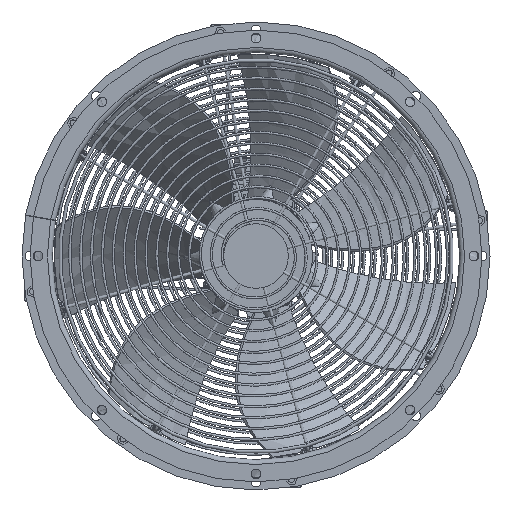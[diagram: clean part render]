
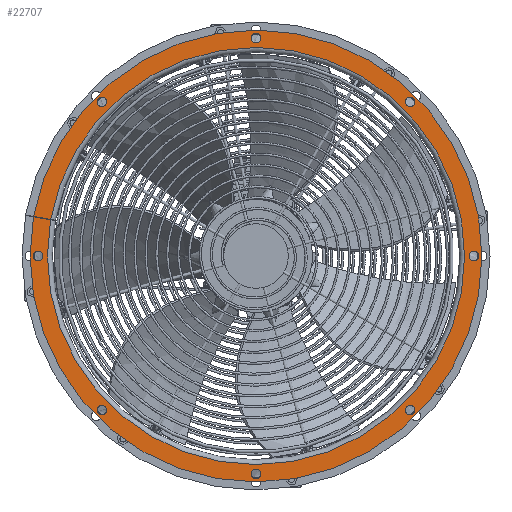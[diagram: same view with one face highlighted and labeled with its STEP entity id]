
A CAD part, left-side view. The second image highlights one B-rep face of the part: STEP entity #22707.
In plain terms, the highlighted planar face has unit normal (-1, 0, 0).
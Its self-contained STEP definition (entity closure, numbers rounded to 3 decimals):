
#1049 = DIRECTION ( 'NONE',  ( 0., 0., -1. ) ) ;
#1681 = DIRECTION ( 'NONE',  ( 1., 0., 0. ) ) ;
#1964 = EDGE_LOOP ( 'NONE', ( #33208, #25334, #48025, #58975 ) ) ;
#2003 = CARTESIAN_POINT ( 'NONE',  ( 0., -195.161, -186.676 ) ) ;
#2537 = CIRCLE ( 'NONE', #17481, 258.5 ) ;
#2540 = AXIS2_PLACEMENT_3D ( 'NONE', #49621, #49313, #54590 ) ;
#3129 = EDGE_CURVE ( 'NONE', #50871, #50871, #20491, .T. ) ;
#3433 = VECTOR ( 'NONE', #42318, 1000. ) ;
#3459 = DIRECTION ( 'NONE',  ( 0., 0.707, 0.707 ) ) ;
#3664 = CIRCLE ( 'NONE', #2540, 6. ) ;
#3907 = LINE ( 'NONE', #19184, #3433 ) ;
#4213 = DIRECTION ( 'NONE',  ( 0., 0.985, 0.174 ) ) ;
#4645 = DIRECTION ( 'NONE',  ( 1., 0., 0. ) ) ;
#4870 = EDGE_CURVE ( 'NONE', #26531, #26531, #3664, .T. ) ;
#5316 = VERTEX_POINT ( 'NONE', #16125 ) ;
#5747 = PLANE ( 'NONE',  #49362 ) ;
#5863 = DIRECTION ( 'NONE',  ( 0., 0.707, -0.707 ) ) ;
#6039 = FACE_BOUND ( 'NONE', #11619, .T. ) ;
#6356 = FACE_BOUND ( 'NONE', #7533, .T. ) ;
#6585 = ORIENTED_EDGE ( 'NONE', *, *, #3129, .T. ) ;
#7250 = CIRCLE ( 'NONE', #16187, 6. ) ;
#7533 = EDGE_LOOP ( 'NONE', ( #11308 ) ) ;
#8323 = AXIS2_PLACEMENT_3D ( 'NONE', #22152, #22465, #50276 ) ;
#8411 = ORIENTED_EDGE ( 'NONE', *, *, #41022, .T. ) ;
#9253 = EDGE_LOOP ( 'NONE', ( #8411 ) ) ;
#9300 = CIRCLE ( 'NONE', #8323, 6. ) ;
#11308 = ORIENTED_EDGE ( 'NONE', *, *, #16876, .T. ) ;
#11619 = EDGE_LOOP ( 'NONE', ( #32321 ) ) ;
#12404 = CARTESIAN_POINT ( 'NONE',  ( 0., -270., 6. ) ) ;
#13828 = CARTESIAN_POINT ( 'NONE',  ( 0., 270., 0. ) ) ;
#14383 = CIRCLE ( 'NONE', #58231, 280. ) ;
#14462 = DIRECTION ( 'NONE',  ( 0., -1., 0. ) ) ;
#16125 = CARTESIAN_POINT ( 'NONE',  ( 0., 275.661, 49.103 ) ) ;
#16187 = AXIS2_PLACEMENT_3D ( 'NONE', #56215, #22798, #3459 ) ;
#16876 = EDGE_CURVE ( 'NONE', #36747, #36747, #31394, .T. ) ;
#17300 = CARTESIAN_POINT ( 'NONE',  ( 0., 195.161, 186.676 ) ) ;
#17355 = EDGE_CURVE ( 'NONE', #42582, #18113, #2537, .T. ) ;
#17481 = AXIS2_PLACEMENT_3D ( 'NONE', #45237, #49301, #29951 ) ;
#18113 = VERTEX_POINT ( 'NONE', #38919 ) ;
#18193 = EDGE_LOOP ( 'NONE', ( #58784 ) ) ;
#18208 = EDGE_CURVE ( 'NONE', #5316, #50559, #14383, .T. ) ;
#18603 = CARTESIAN_POINT ( 'NONE',  ( 0., 254.573, 44.888 ) ) ;
#18839 = DIRECTION ( 'NONE',  ( 1., 0., 0. ) ) ;
#19039 = EDGE_LOOP ( 'NONE', ( #6585 ) ) ;
#19184 = CARTESIAN_POINT ( 'NONE',  ( 0., 254.494, 45.332 ) ) ;
#20491 = CIRCLE ( 'NONE', #34508, 6. ) ;
#21868 = CARTESIAN_POINT ( 'NONE',  ( 0., 254.494, 45.332 ) ) ;
#22141 = VERTEX_POINT ( 'NONE', #37143 ) ;
#22152 = CARTESIAN_POINT ( 'NONE',  ( 0., -190.919, -190.919 ) ) ;
#22465 = DIRECTION ( 'NONE',  ( 1., 0., 0. ) ) ;
#22707 = ADVANCED_FACE ( 'NONE', ( #30699, #30081, #49119, #6039, #49749, #6356, #53202, #29482, #48530 ), #5747, .F. ) ;
#22798 = DIRECTION ( 'NONE',  ( 1., 0., 0. ) ) ;
#22966 = VECTOR ( 'NONE', #4213, 1000. ) ;
#24571 = CARTESIAN_POINT ( 'NONE',  ( 0., 0., 0. ) ) ;
#25334 = ORIENTED_EDGE ( 'NONE', *, *, #61730, .F. ) ;
#26531 = VERTEX_POINT ( 'NONE', #45589 ) ;
#27526 = EDGE_LOOP ( 'NONE', ( #44833 ) ) ;
#28736 = EDGE_CURVE ( 'NONE', #38561, #38561, #7250, .T. ) ;
#29482 = FACE_BOUND ( 'NONE', #18193, .T. ) ;
#29951 = DIRECTION ( 'NONE',  ( 0., 0., -1. ) ) ;
#30081 = FACE_BOUND ( 'NONE', #19039, .T. ) ;
#30269 = EDGE_LOOP ( 'NONE', ( #54000 ) ) ;
#30490 = DIRECTION ( 'NONE',  ( 1., 0., 0. ) ) ;
#30699 = FACE_OUTER_BOUND ( 'NONE', #1964, .T. ) ;
#31394 = CIRCLE ( 'NONE', #56342, 6. ) ;
#32272 = DIRECTION ( 'NONE',  ( 1., 0., 0. ) ) ;
#32321 = ORIENTED_EDGE ( 'NONE', *, *, #58407, .T. ) ;
#33099 = DIRECTION ( 'NONE',  ( 0., -0.707, -0.707 ) ) ;
#33208 = ORIENTED_EDGE ( 'NONE', *, *, #18208, .F. ) ;
#33960 = CIRCLE ( 'NONE', #48876, 6. ) ;
#34508 = AXIS2_PLACEMENT_3D ( 'NONE', #13828, #32272, #51902 ) ;
#36681 = VERTEX_POINT ( 'NONE', #2003 ) ;
#36747 = VERTEX_POINT ( 'NONE', #12404 ) ;
#37126 = EDGE_CURVE ( 'NONE', #36681, #36681, #9300, .T. ) ;
#37143 = CARTESIAN_POINT ( 'NONE',  ( 0., -6., -270. ) ) ;
#37922 = EDGE_CURVE ( 'NONE', #40073, #40073, #52768, .T. ) ;
#38561 = VERTEX_POINT ( 'NONE', #58229 ) ;
#38919 = CARTESIAN_POINT ( 'NONE',  ( 0., 254.573, 44.888 ) ) ;
#40073 = VERTEX_POINT ( 'NONE', #17300 ) ;
#40619 = EDGE_CURVE ( 'NONE', #18113, #50559, #47021, .T. ) ;
#40701 = DIRECTION ( 'NONE',  ( 1., 0., 0. ) ) ;
#41022 = EDGE_CURVE ( 'NONE', #61628, #61628, #33960, .T. ) ;
#41344 = CARTESIAN_POINT ( 'NONE',  ( 0., -270., 0. ) ) ;
#42318 = DIRECTION ( 'NONE',  ( 0., 0.985, 0.175 ) ) ;
#42582 = VERTEX_POINT ( 'NONE', #21868 ) ;
#43838 = CARTESIAN_POINT ( 'NONE',  ( 0., 254.494, 45.332 ) ) ;
#43927 = ORIENTED_EDGE ( 'NONE', *, *, #37126, .T. ) ;
#44833 = ORIENTED_EDGE ( 'NONE', *, *, #37922, .T. ) ;
#45237 = CARTESIAN_POINT ( 'NONE',  ( 0., 0., 0. ) ) ;
#45589 = CARTESIAN_POINT ( 'NONE',  ( 0., 6., 270. ) ) ;
#45784 = AXIS2_PLACEMENT_3D ( 'NONE', #48644, #4645, #5863 ) ;
#47021 = LINE ( 'NONE', #18603, #22966 ) ;
#47271 = CARTESIAN_POINT ( 'NONE',  ( 0., 186.676, -195.161 ) ) ;
#48025 = ORIENTED_EDGE ( 'NONE', *, *, #17355, .T. ) ;
#48063 = CIRCLE ( 'NONE', #56031, 6. ) ;
#48530 = FACE_BOUND ( 'NONE', #27526, .T. ) ;
#48644 = CARTESIAN_POINT ( 'NONE',  ( 0., 190.919, 190.919 ) ) ;
#48876 = AXIS2_PLACEMENT_3D ( 'NONE', #60884, #61519, #33099 ) ;
#49119 = FACE_BOUND ( 'NONE', #9253, .T. ) ;
#49301 = DIRECTION ( 'NONE',  ( 1., 0., 0. ) ) ;
#49313 = DIRECTION ( 'NONE',  ( 1., 0., 0. ) ) ;
#49362 = AXIS2_PLACEMENT_3D ( 'NONE', #43838, #1681, #1049 ) ;
#49621 = CARTESIAN_POINT ( 'NONE',  ( 0., 0., 270. ) ) ;
#49749 = FACE_BOUND ( 'NONE', #53503, .T. ) ;
#50276 = DIRECTION ( 'NONE',  ( 0., -0.707, 0.707 ) ) ;
#50559 = VERTEX_POINT ( 'NONE', #60271 ) ;
#50871 = VERTEX_POINT ( 'NONE', #60546 ) ;
#51902 = DIRECTION ( 'NONE',  ( 0., 0., -1. ) ) ;
#52561 = CARTESIAN_POINT ( 'NONE',  ( 0., 0., -270. ) ) ;
#52768 = CIRCLE ( 'NONE', #45784, 6. ) ;
#53202 = FACE_BOUND ( 'NONE', #30269, .T. ) ;
#53503 = EDGE_LOOP ( 'NONE', ( #43927 ) ) ;
#54000 = ORIENTED_EDGE ( 'NONE', *, *, #28736, .T. ) ;
#54590 = DIRECTION ( 'NONE',  ( 0., 1., 0. ) ) ;
#55701 = DIRECTION ( 'NONE',  ( 0., 0., 1. ) ) ;
#56031 = AXIS2_PLACEMENT_3D ( 'NONE', #52561, #18839, #14462 ) ;
#56215 = CARTESIAN_POINT ( 'NONE',  ( 0., -190.919, 190.919 ) ) ;
#56342 = AXIS2_PLACEMENT_3D ( 'NONE', #41344, #40701, #55701 ) ;
#58229 = CARTESIAN_POINT ( 'NONE',  ( 0., -186.676, 195.161 ) ) ;
#58231 = AXIS2_PLACEMENT_3D ( 'NONE', #24571, #30490, #58298 ) ;
#58298 = DIRECTION ( 'NONE',  ( 0., 0., -1. ) ) ;
#58407 = EDGE_CURVE ( 'NONE', #22141, #22141, #48063, .T. ) ;
#58784 = ORIENTED_EDGE ( 'NONE', *, *, #4870, .T. ) ;
#58975 = ORIENTED_EDGE ( 'NONE', *, *, #40619, .T. ) ;
#60271 = CARTESIAN_POINT ( 'NONE',  ( 0., 275.746, 48.621 ) ) ;
#60546 = CARTESIAN_POINT ( 'NONE',  ( 0., 270., -6. ) ) ;
#60884 = CARTESIAN_POINT ( 'NONE',  ( 0., 190.919, -190.919 ) ) ;
#61519 = DIRECTION ( 'NONE',  ( 1., 0., 0. ) ) ;
#61628 = VERTEX_POINT ( 'NONE', #47271 ) ;
#61730 = EDGE_CURVE ( 'NONE', #42582, #5316, #3907, .T. ) ;
